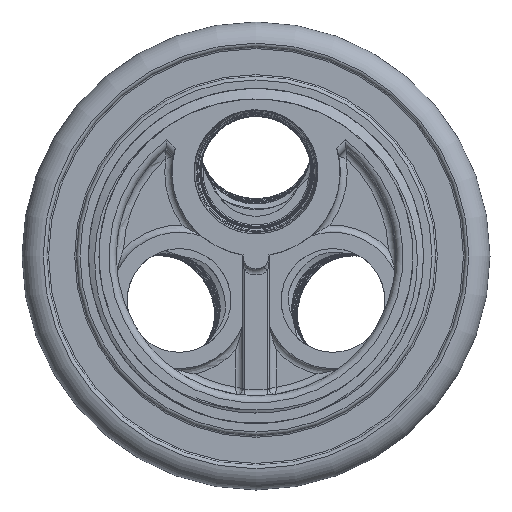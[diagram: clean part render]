
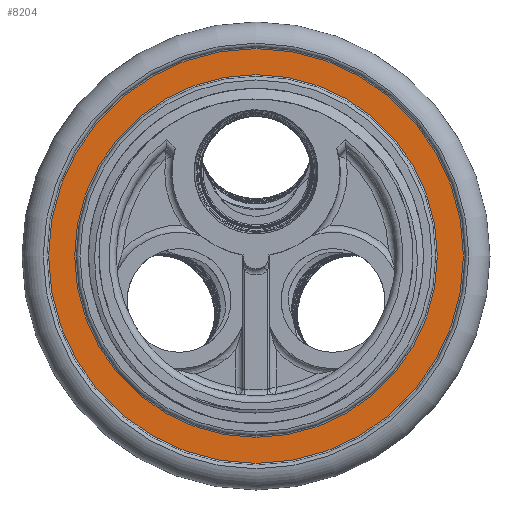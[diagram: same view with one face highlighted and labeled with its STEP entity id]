
A CAD part, front view. The second image highlights one B-rep face of the part: STEP entity #8204.
In plain terms, the highlighted planar face has unit normal (0, -1, 0).
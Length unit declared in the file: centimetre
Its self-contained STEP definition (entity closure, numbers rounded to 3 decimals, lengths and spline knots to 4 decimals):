
#487=CIRCLE('',#8696,4.445);
#488=CIRCLE('',#8698,3.8862);
#1899=VERTEX_POINT('',#296358);
#1900=VERTEX_POINT('',#296361);
#4161=EDGE_CURVE('',#1899,#1899,#487,.T.);
#4162=EDGE_CURVE('',#1900,#1900,#488,.T.);
#6640=ORIENTED_EDGE('',*,*,#4162,.F.);
#6641=ORIENTED_EDGE('',*,*,#4161,.F.);
#7192=EDGE_LOOP('',(#6640));
#7193=EDGE_LOOP('',(#6641));
#7724=FACE_BOUND('',#7192,.T.);
#7725=FACE_BOUND('',#7193,.T.);
#8204=ADVANCED_FACE('',(#7724,#7725),#296569,.T.);
#8696=AXIS2_PLACEMENT_3D('',#296357,#10003,#10004);
#8697=AXIS2_PLACEMENT_3D('',#296359,#10005,$);
#8698=AXIS2_PLACEMENT_3D('',#296360,#10006,#10007);
#10003=DIRECTION('',(0.,1.,0.));
#10004=DIRECTION('',(-4.445,0.,0.));
#10005=DIRECTION('',(0.,-1.,0.));
#10006=DIRECTION('',(0.,-1.,0.));
#10007=DIRECTION('',(-3.886,0.,0.));
#296357=CARTESIAN_POINT('',(0.,0.4318,0.));
#296358=CARTESIAN_POINT('',(4.445,0.4318,0.));
#296359=CARTESIAN_POINT('',(0.,0.4318,0.));
#296360=CARTESIAN_POINT('',(0.,0.4318,0.));
#296361=CARTESIAN_POINT('',(3.8862,0.4318,0.));
#296569=PLANE('',#8697);
